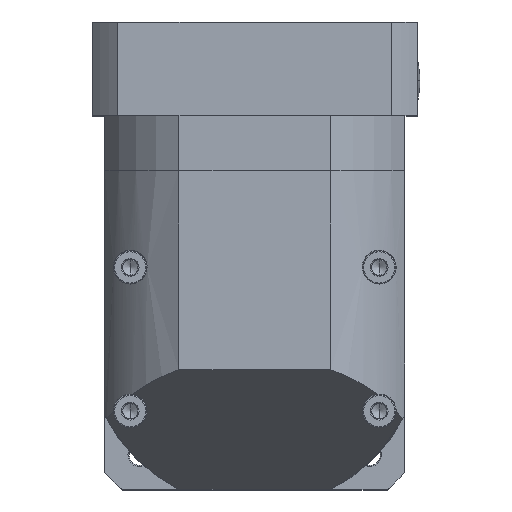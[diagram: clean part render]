
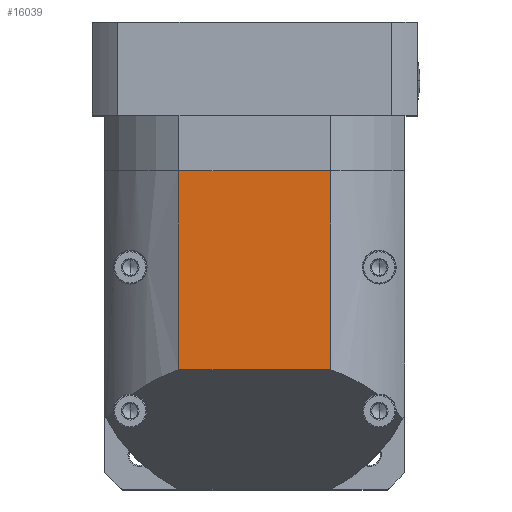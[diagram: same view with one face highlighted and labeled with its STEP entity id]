
A CAD part, top view. The second image highlights one B-rep face of the part: STEP entity #16039.
In plain terms, the highlighted planar face has unit normal (0, 0, 1).
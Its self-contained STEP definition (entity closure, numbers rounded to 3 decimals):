
#289 = CARTESIAN_POINT ( 'NONE',  ( -42.037, -2.224, 239.832 ) ) ;
#2228 = FACE_OUTER_BOUND ( 'NONE', #15873, .T. ) ;
#2522 = VERTEX_POINT ( 'NONE', #21195 ) ;
#3032 = VERTEX_POINT ( 'NONE', #15177 ) ;
#4081 = DIRECTION ( 'NONE',  ( 1., 0., 0. ) ) ;
#4108 = EDGE_CURVE ( 'NONE', #2522, #4853, #10597, .T. ) ;
#4853 = VERTEX_POINT ( 'NONE', #16279 ) ;
#5039 = ORIENTED_EDGE ( 'NONE', *, *, #14182, .T. ) ;
#5434 = CARTESIAN_POINT ( 'NONE',  ( 18.71, -2.224, 239.832 ) ) ;
#5569 = DIRECTION ( 'NONE',  ( 0., 1., 0. ) ) ;
#7237 = EDGE_CURVE ( 'NONE', #3032, #15492, #20501, .T. ) ;
#7402 = VECTOR ( 'NONE', #7892, 1000. ) ;
#7441 = VECTOR ( 'NONE', #4081, 1000. ) ;
#7892 = DIRECTION ( 'NONE',  ( 0., -1., 0. ) ) ;
#8609 = ORIENTED_EDGE ( 'NONE', *, *, #17830, .F. ) ;
#9254 = PLANE ( 'NONE',  #13242 ) ;
#9950 = ORIENTED_EDGE ( 'NONE', *, *, #4108, .F. ) ;
#10597 = LINE ( 'NONE', #16126, #17880 ) ;
#11461 = CARTESIAN_POINT ( 'NONE',  ( 18.71, -2.224, 239.832 ) ) ;
#12264 = DIRECTION ( 'NONE',  ( -1., 0., 0. ) ) ;
#12468 = CARTESIAN_POINT ( 'NONE',  ( 18.71, -2.224, 239.832 ) ) ;
#13242 = AXIS2_PLACEMENT_3D ( 'NONE', #5434, #16741, #5569 ) ;
#14182 = EDGE_CURVE ( 'NONE', #3032, #4853, #16906, .T. ) ;
#15177 = CARTESIAN_POINT ( 'NONE',  ( -42.037, -2.224, 239.832 ) ) ;
#15492 = VERTEX_POINT ( 'NONE', #16408 ) ;
#15873 = EDGE_LOOP ( 'NONE', ( #5039, #9950, #8609, #23646 ) ) ;
#16039 = ADVANCED_FACE ( 'NONE', ( #2228 ), #9254, .F. ) ;
#16126 = CARTESIAN_POINT ( 'NONE',  ( 48.337, -81.724, 239.832 ) ) ;
#16279 = CARTESIAN_POINT ( 'NONE',  ( -42.037, -81.724, 239.832 ) ) ;
#16408 = CARTESIAN_POINT ( 'NONE',  ( 18.71, -2.224, 239.832 ) ) ;
#16741 = DIRECTION ( 'NONE',  ( 0., 0., -1. ) ) ;
#16906 = LINE ( 'NONE', #289, #7402 ) ;
#17830 = EDGE_CURVE ( 'NONE', #15492, #2522, #21362, .T. ) ;
#17880 = VECTOR ( 'NONE', #12264, 1000. ) ;
#20501 = LINE ( 'NONE', #11461, #7441 ) ;
#20624 = VECTOR ( 'NONE', #23291, 1000. ) ;
#21195 = CARTESIAN_POINT ( 'NONE',  ( 18.71, -81.724, 239.832 ) ) ;
#21362 = LINE ( 'NONE', #12468, #20624 ) ;
#23291 = DIRECTION ( 'NONE',  ( 0., -1., 0. ) ) ;
#23646 = ORIENTED_EDGE ( 'NONE', *, *, #7237, .F. ) ;
